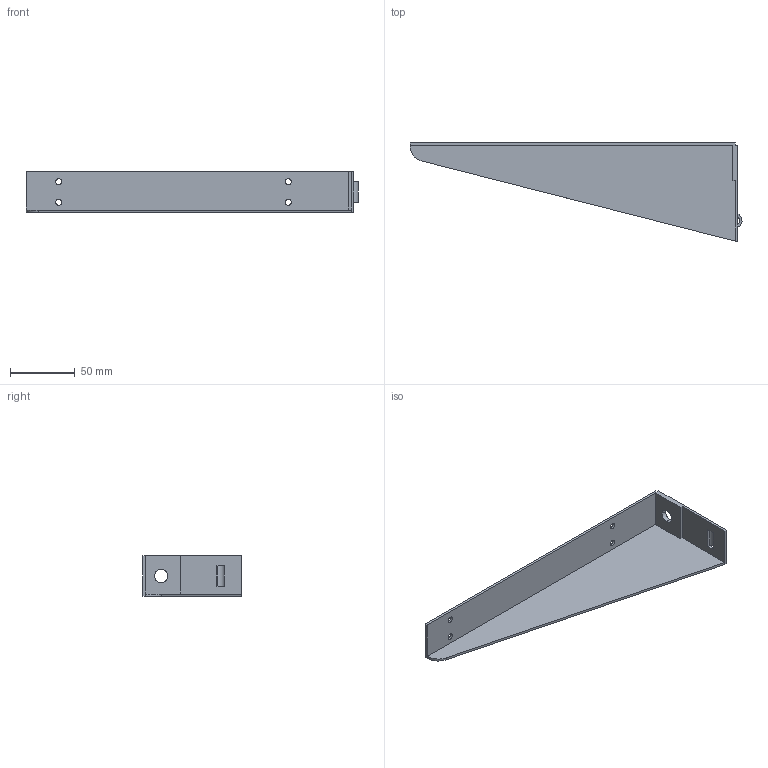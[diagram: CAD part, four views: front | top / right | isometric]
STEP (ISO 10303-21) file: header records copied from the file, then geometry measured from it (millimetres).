
FILE_DESCRIPTION(('TurboCAD Mac Pro'),'Build 980');
FILE_NAME('A2493L.stp',' ',(''),(''),'ACIS Interop','IMSI','TurboCAD Mac Pro BY IMSI, INCORPORATED');
FILE_SCHEMA(('automotive_design'));
Length unit declared in the file: inch
Products named in the file (1): 1
Bounding box: 257.17 x 76.2 x 31.75 mm (x, y, z)
Volume: 41140.9 mm3; surface area: 43374.2 mm2
Topology: 1 solids, 1 shells, 46 faces, 129 edges, 84 vertices
Faces by surface type: bspline 26, plane 20
Entity records: 2279 total; most frequent: CARTESIAN_POINT 606, ORIENTED_EDGE 258, EDGE_CURVE 129, DIRECTION 127, STYLED_ITEM 95, PRESENTATION_STYLE_ASSIGNMENT 95, COLOUR_RGB 95, VERTEX_POINT 84
